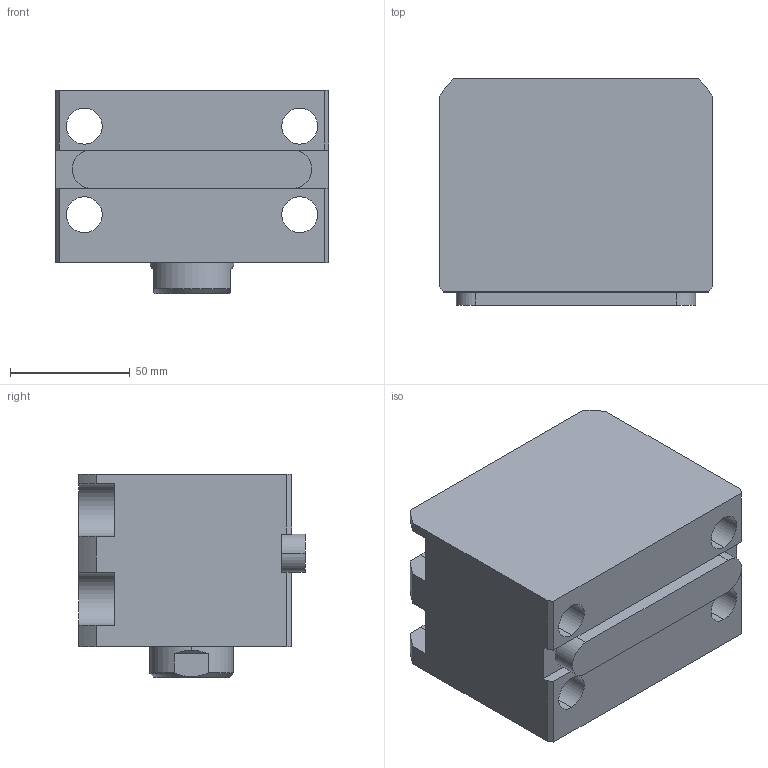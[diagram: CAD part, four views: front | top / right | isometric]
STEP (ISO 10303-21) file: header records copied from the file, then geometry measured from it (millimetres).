
FILE_DESCRIPTION (( 'STEP AP214' ), '1' );
FILE_NAME ('chtb-la63x5n_asm.STEP', '2018-05-02T10:14:57', ( 'Windows' ), ( 'Microsoft' ), 'SwSTEP 2.0', 'SolidWorks 2015', '' );
FILE_SCHEMA (( 'AUTOMOTIVE_DESIGN' ));
Length unit declared in the file: millimetre
Products named in the file (5): CHTB-LA63X5NBT; CHTB-LA63PJ; CHTB63X5NHSG; CHTB-63QG; chtb-la63x5n_asm
Assembly tree (4 placements, depth 2):
  chtb-la63x5n_asm
    CHTB-63QG
    CHTB63X5NHSG
    CHTB-LA63PJ
    CHTB-LA63X5NBT
Bounding box: 114 x 94.5 x 85 mm (x, y, z)
Volume: 644171.9 mm3; surface area: 120495.3 mm2
Topology: 4 solids, 4 shells, 174 faces, 510 edges, 348 vertices
Faces by surface type: cylinder 98, plane 45, bspline 12, cone 12, torus 7
Entity records: 18199 total; most frequent: CARTESIAN_POINT 13678, ORIENTED_EDGE 1008, DIRECTION 778, EDGE_CURVE 504, VERTEX_POINT 348, AXIS2_PLACEMENT_3D 295, EDGE_LOOP 198, VECTOR 188
